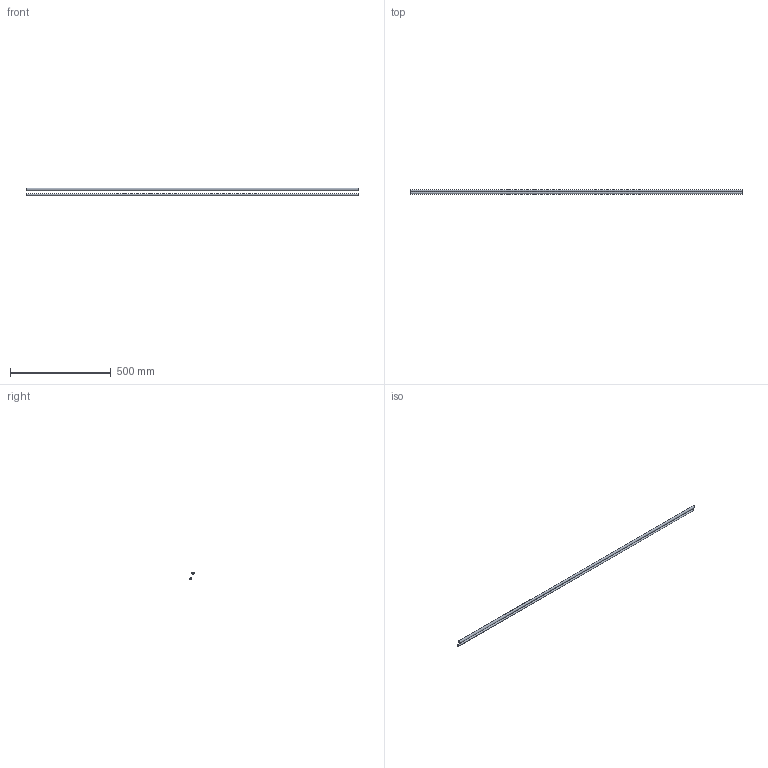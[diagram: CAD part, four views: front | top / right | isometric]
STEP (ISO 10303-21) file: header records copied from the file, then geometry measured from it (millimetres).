
FILE_DESCRIPTION(/* description */ (''),/* implementation_level */ '2;1');
FILE_NAME(/* name */ 'Spars.step',/* time_stamp */ '2023-08-12T23:56:20+03:00',/* author */ (''),/* organization */ (''),/* preprocessor_version */ 'ST-DEVELOPER v20',/* originating_system */ 'Autodesk Translation Framework v12.9.0.99',/* authorisation */ '');
FILE_SCHEMA (('AUTOMOTIVE_DESIGN { 1 0 10303 214 3 1 1 }'));
Length unit declared in the file: millimetre
Products named in the file (4): spars (v7~recovered); Front Spar; Component4; Rear Spar
Assembly tree (3 placements, depth 3):
  spars (v7~recovered)
    Front Spar
      Component4
    Rear Spar
Bounding box: 1650 x 21.74 x 37.91 mm (x, y, z)
Volume: 103672.6 mm3; surface area: 207470.8 mm2
Topology: 2 solids, 2 shells, 8 faces, 12 edges, 8 vertices
Faces by surface type: cylinder 4, plane 4
Full cylindrical faces by diameter (mm): 8 x1, 10 x2, 12 x1
Entity records: 304 total; most frequent: DIRECTION 50, CARTESIAN_POINT 35, ORIENTED_EDGE 24, AXIS2_PLACEMENT_3D 23, EDGE_LOOP 12, EDGE_CURVE 12, FACE_OUTER_BOUND 8, CIRCLE 8
